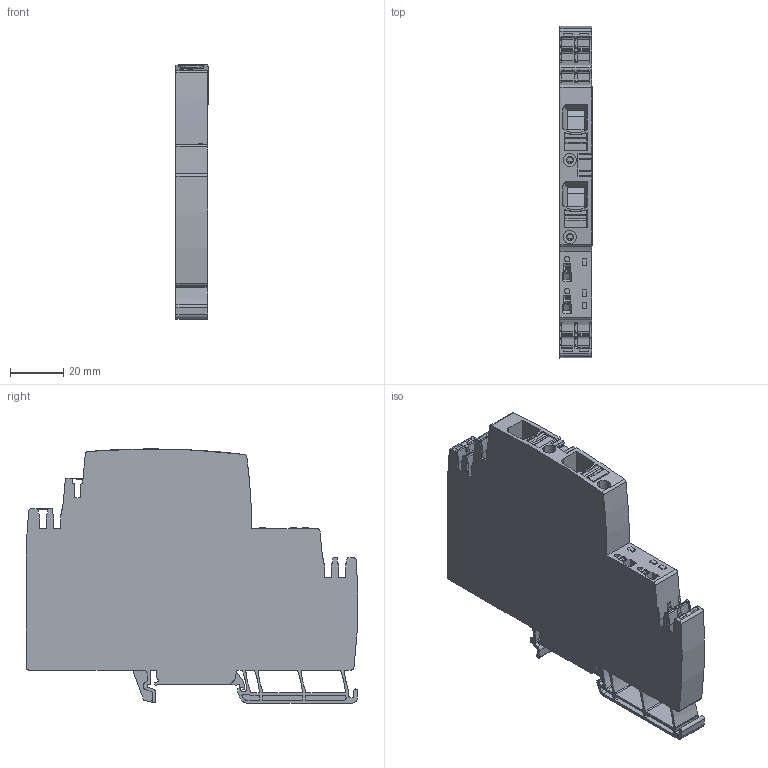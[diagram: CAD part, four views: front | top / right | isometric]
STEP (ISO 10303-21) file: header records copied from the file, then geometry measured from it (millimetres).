
FILE_DESCRIPTION(('CATIA V5R24 STEP','CAx-IF Rec.Pracs.--- Model Styling and Organization---1.2---2011-12-15'),'2;1');
FILE_NAME('\\SRVDE107\Germany\WMC\1_WMC_Input\Step_BU_PA\2081880000.stp','2017-09-05T12:04:40+00:00',('Weidmueller Interface'),('WI'),'CATIA Version 5-6 Release 2014 SP4','CATIA V5 STEP AP214','none');
FILE_SCHEMA(('AUTOMOTIVE_DESIGN { 1 0 10303 214 1 1 1 1 }'));
Length unit declared in the file: millimetre
Products named in the file (1): 2081880000
Bounding box: 12.1 x 125.07 x 95.75 mm (x, y, z)
Volume: 99793.9 mm3; surface area: 32863.8 mm2
Topology: 14 solids, 14 shells, 1176 faces, 3667 edges, 2554 vertices
Faces by surface type: plane 696, cylinder 392, extrusion 88
Entity records: 43006 total; most frequent: CARTESIAN_POINT 10243, ORIENTED_EDGE 7334, DIRECTION 5231, EDGE_CURVE 3667, VECTOR 2674, LINE 2586, VERTEX_POINT 2554, AXIS2_PLACEMENT_3D 1662
